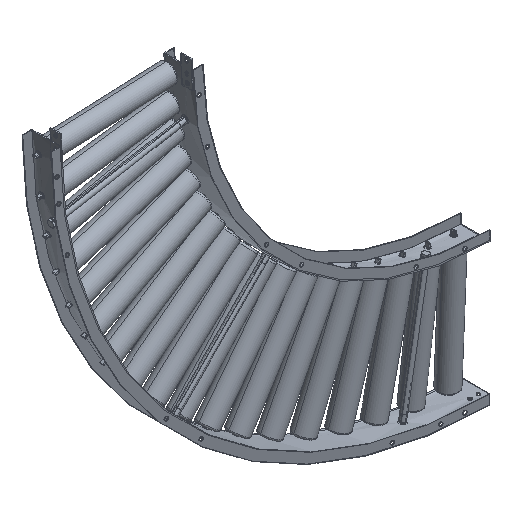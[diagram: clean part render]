
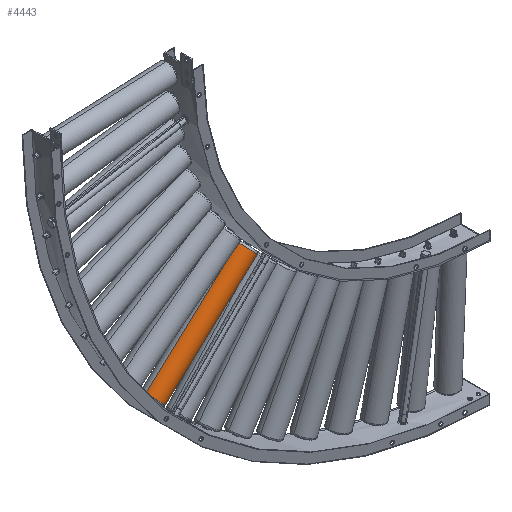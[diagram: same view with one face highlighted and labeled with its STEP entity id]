
A CAD part, isometric view. The second image highlights one B-rep face of the part: STEP entity #4443.
In plain terms, the highlighted cylindrical face has radius 30.25 mm (diameter 60.5 mm), a partial arc.
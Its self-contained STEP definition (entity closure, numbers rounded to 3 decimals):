
#441 = CYLINDRICAL_SURFACE ( 'NONE', #19714, 30.25 ) ;
#1402 = ORIENTED_EDGE ( 'NONE', *, *, #16551, .T. ) ;
#2741 = LINE ( 'NONE', #38031, #13141 ) ;
#4443 = ADVANCED_FACE ( 'NONE', ( #17998 ), #441, .T. ) ;
#6959 = EDGE_CURVE ( 'NONE', #14813, #18817, #2741, .T. ) ;
#10651 = CARTESIAN_POINT ( 'NONE',  ( -397.154, 30.082, -443.773 ) ) ;
#13141 = VECTOR ( 'NONE', #23360, 1000. ) ;
#13329 = DIRECTION ( 'NONE',  ( 0.674, -0.061, -0.736 ) ) ;
#14813 = VERTEX_POINT ( 'NONE', #27089 ) ;
#15113 = ORIENTED_EDGE ( 'NONE', *, *, #34202, .T. ) ;
#15273 = VERTEX_POINT ( 'NONE', #34298 ) ;
#15293 = CARTESIAN_POINT ( 'NONE',  ( -133.701, 31.924, -161.409 ) ) ;
#16219 = DIRECTION ( 'NONE',  ( 0.737, 0., 0.676 ) ) ;
#16551 = EDGE_CURVE ( 'NONE', #15273, #19555, #29652, .T. ) ;
#17693 = CARTESIAN_POINT ( 'NONE',  ( -154.1, 33.766, -139.148 ) ) ;
#17998 = FACE_OUTER_BOUND ( 'NONE', #38119, .T. ) ;
#18567 = CIRCLE ( 'NONE', #27840, 30.25 ) ;
#18817 = VERTEX_POINT ( 'NONE', #10651 ) ;
#18879 = VECTOR ( 'NONE', #19673, 1000. ) ;
#19555 = VERTEX_POINT ( 'NONE', #36418 ) ;
#19673 = DIRECTION ( 'NONE',  ( -0.737, 0., -0.676 ) ) ;
#19714 = AXIS2_PLACEMENT_3D ( 'NONE', #15293, #27267, #20879 ) ;
#20879 = DIRECTION ( 'NONE',  ( -0.674, 0.061, 0.736 ) ) ;
#21934 = ORIENTED_EDGE ( 'NONE', *, *, #35697, .T. ) ;
#23360 = DIRECTION ( 'NONE',  ( -0.737, 0., -0.676 ) ) ;
#26426 = AXIS2_PLACEMENT_3D ( 'NONE', #27614, #16219, #13329 ) ;
#27037 = CIRCLE ( 'NONE', #26426, 30.25 ) ;
#27089 = CARTESIAN_POINT ( 'NONE',  ( -116.989, 30.082, -187.048 ) ) ;
#27267 = DIRECTION ( 'NONE',  ( -0.737, 0., -0.676 ) ) ;
#27614 = CARTESIAN_POINT ( 'NONE',  ( -417.553, 31.924, -421.511 ) ) ;
#27840 = AXIS2_PLACEMENT_3D ( 'NONE', #38172, #32211, #32403 ) ;
#29652 = LINE ( 'NONE', #17693, #18879 ) ;
#32211 = DIRECTION ( 'NONE',  ( -0.737, 0., -0.676 ) ) ;
#32403 = DIRECTION ( 'NONE',  ( 0.674, -0.061, -0.736 ) ) ;
#34202 = EDGE_CURVE ( 'NONE', #14813, #15273, #18567, .T. ) ;
#34298 = CARTESIAN_POINT ( 'NONE',  ( -157.786, 33.766, -142.526 ) ) ;
#35697 = EDGE_CURVE ( 'NONE', #19555, #18817, #27037, .T. ) ;
#36418 = CARTESIAN_POINT ( 'NONE',  ( -437.952, 33.766, -399.25 ) ) ;
#36959 = ORIENTED_EDGE ( 'NONE', *, *, #6959, .F. ) ;
#38031 = CARTESIAN_POINT ( 'NONE',  ( -113.303, 30.082, -183.67 ) ) ;
#38119 = EDGE_LOOP ( 'NONE', ( #36959, #15113, #1402, #21934 ) ) ;
#38172 = CARTESIAN_POINT ( 'NONE',  ( -137.388, 31.924, -164.787 ) ) ;
